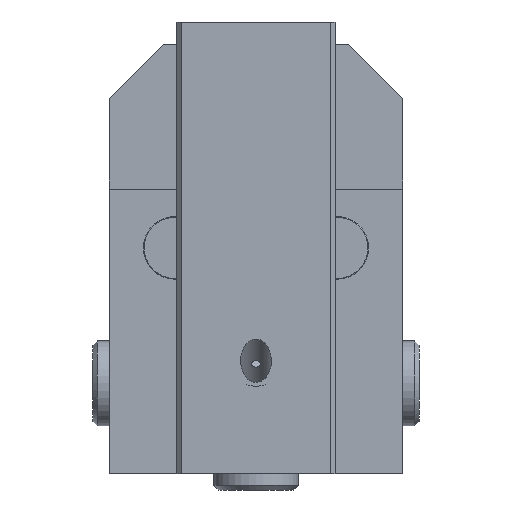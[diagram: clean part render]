
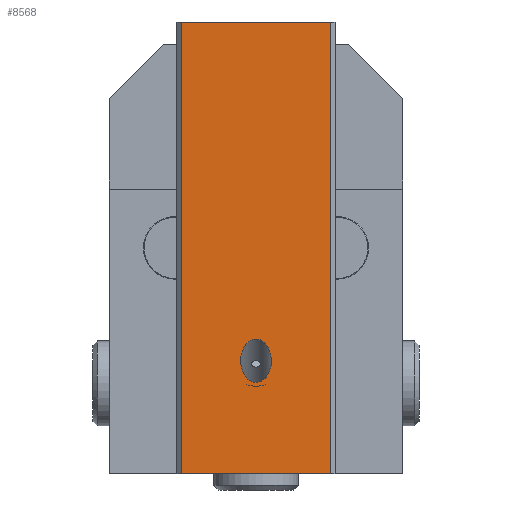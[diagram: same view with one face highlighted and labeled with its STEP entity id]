
A CAD part, front view. The second image highlights one B-rep face of the part: STEP entity #8568.
In plain terms, the highlighted planar face has unit normal (0, -1, 0).
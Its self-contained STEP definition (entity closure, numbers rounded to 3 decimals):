
#132=ELLIPSE('',#8944,4.808,3.4);
#133=ELLIPSE('',#8945,4.808,3.4);
#440=FACE_BOUND('',#1442,.T.);
#609=PLANE('',#8980);
#960=FACE_OUTER_BOUND('',#1441,.T.);
#1441=EDGE_LOOP('',(#6559,#6560,#6561,#6562));
#1442=EDGE_LOOP('',(#6563,#6564));
#2069=LINE('',#13818,#2708);
#2092=LINE('',#13898,#2731);
#2104=LINE('',#13921,#2743);
#2108=LINE('',#13928,#2747);
#2708=VECTOR('',#10080,10.);
#2731=VECTOR('',#10161,10.);
#2743=VECTOR('',#10175,10.);
#2747=VECTOR('',#10185,10.);
#3684=VERTEX_POINT('',#13814);
#3686=VERTEX_POINT('',#13817);
#3703=VERTEX_POINT('',#13858);
#3704=VERTEX_POINT('',#13860);
#3714=VERTEX_POINT('',#13896);
#3724=VERTEX_POINT('',#13919);
#4695=EDGE_CURVE('',#3686,#3684,#2069,.T.);
#4713=EDGE_CURVE('',#3704,#3703,#132,.T.);
#4714=EDGE_CURVE('',#3703,#3704,#133,.T.);
#4732=EDGE_CURVE('',#3714,#3684,#2092,.T.);
#4744=EDGE_CURVE('',#3714,#3724,#2104,.T.);
#4748=EDGE_CURVE('',#3686,#3724,#2108,.T.);
#6559=ORIENTED_EDGE('',*,*,#4732,.F.);
#6560=ORIENTED_EDGE('',*,*,#4744,.T.);
#6561=ORIENTED_EDGE('',*,*,#4748,.F.);
#6562=ORIENTED_EDGE('',*,*,#4695,.T.);
#6563=ORIENTED_EDGE('',*,*,#4713,.T.);
#6564=ORIENTED_EDGE('',*,*,#4714,.T.);
#8568=ADVANCED_FACE('',(#960,#440),#609,.T.);
#8944=AXIS2_PLACEMENT_3D('',#13861,#10114,#10115);
#8945=AXIS2_PLACEMENT_3D('',#13862,#10116,#10117);
#8980=AXIS2_PLACEMENT_3D('',#13951,#10220,#10221);
#10080=DIRECTION('',(1.,0.,0.));
#10114=DIRECTION('center_axis',(0.,1.,0.));
#10115=DIRECTION('ref_axis',(0.,0.,1.));
#10116=DIRECTION('center_axis',(0.,1.,0.));
#10117=DIRECTION('ref_axis',(0.,0.,1.));
#10161=DIRECTION('',(0.,0.,-1.));
#10175=DIRECTION('',(-1.,0.,0.));
#10185=DIRECTION('',(0.,0.,1.));
#10220=DIRECTION('center_axis',(0.,-1.,0.));
#10221=DIRECTION('ref_axis',(0.,0.,-1.));
#13814=CARTESIAN_POINT('',(21.572,-39.422,-50.));
#13817=CARTESIAN_POINT('',(-11.428,-39.422,-50.));
#13818=CARTESIAN_POINT('',(-12.428,-39.422,-50.));
#13858=CARTESIAN_POINT('',(5.072,-39.422,-29.808));
#13860=CARTESIAN_POINT('',(5.072,-39.422,-20.192));
#13861=CARTESIAN_POINT('Origin',(5.072,-39.422,-25.));
#13862=CARTESIAN_POINT('Origin',(5.072,-39.422,-25.));
#13896=CARTESIAN_POINT('',(21.572,-39.422,50.));
#13898=CARTESIAN_POINT('',(21.572,-39.422,0.));
#13919=CARTESIAN_POINT('',(-11.428,-39.422,50.));
#13921=CARTESIAN_POINT('',(-12.428,-39.422,50.));
#13928=CARTESIAN_POINT('',(-11.428,-39.422,0.));
#13951=CARTESIAN_POINT('Origin',(22.572,-39.422,0.));
